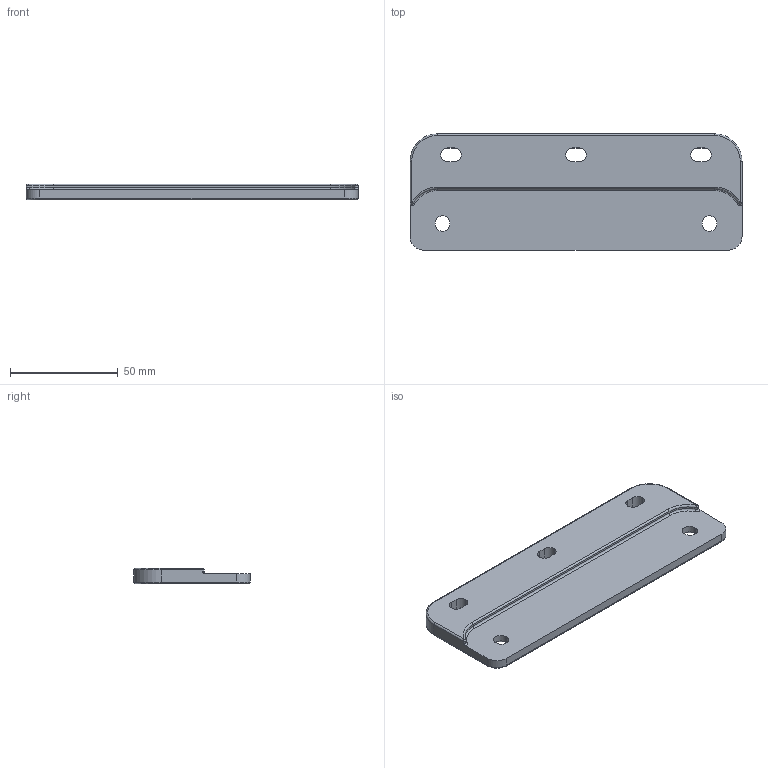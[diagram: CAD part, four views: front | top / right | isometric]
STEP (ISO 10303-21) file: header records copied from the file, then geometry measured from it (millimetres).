
FILE_DESCRIPTION (( 'STEP AP214' ), '1' );
FILE_NAME ('apolyft6.STEP', '2007-12-14T13:18:15', ( '' ), ( '' ), 'SwSTEP 2.0', 'SolidWorks 2007', '' );
FILE_SCHEMA (( 'AUTOMOTIVE_DESIGN' ));
Length unit declared in the file: inch
Products named in the file (1): apolyft6
Bounding box: 154.03 x 53.98 x 7.24 mm (x, y, z)
Volume: 47003.1 mm3; surface area: 19214.2 mm2
Topology: 1 solids, 1 shells, 70 faces, 176 edges, 106 vertices
Faces by surface type: cylinder 30, plane 22, torus 12, cone 4, sphere 2
Entity records: 2117 total; most frequent: DIRECTION 392, CARTESIAN_POINT 361, ORIENTED_EDGE 344, EDGE_CURVE 172, AXIS2_PLACEMENT_3D 151, VERTEX_POINT 104, VECTOR 90, LINE 90
